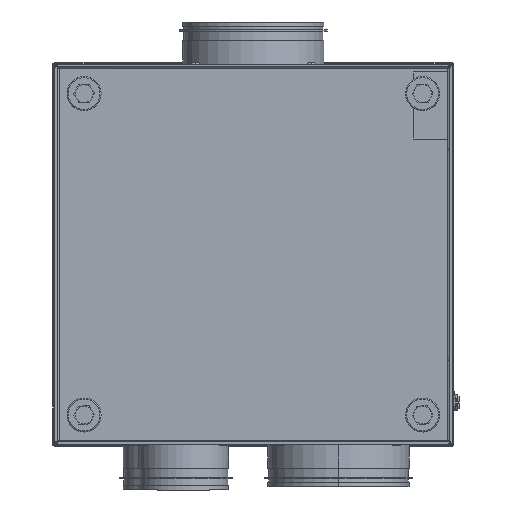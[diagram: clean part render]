
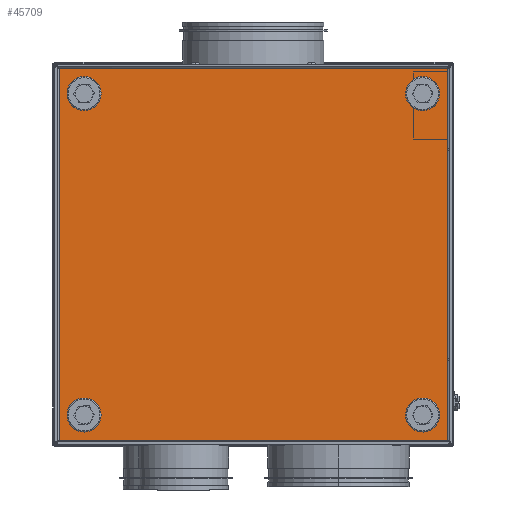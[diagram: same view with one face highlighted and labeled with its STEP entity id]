
A CAD part, front view. The second image highlights one B-rep face of the part: STEP entity #45709.
In plain terms, the highlighted planar face has unit normal (0, -1, 0).
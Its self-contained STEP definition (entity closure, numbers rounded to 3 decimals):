
#90 = DIRECTION ( 'NONE',  ( 0., 0., -1. ) ) ;
#812 = VERTEX_POINT ( 'NONE', #132960 ) ;
#2305 = EDGE_CURVE ( 'NONE', #3765, #5589, #123613, .T. ) ;
#3765 = VERTEX_POINT ( 'NONE', #151970 ) ;
#4044 = DIRECTION ( 'NONE',  ( 0., 1., 0. ) ) ;
#4382 = ORIENTED_EDGE ( 'NONE', *, *, #33669, .T. ) ;
#4397 = ORIENTED_EDGE ( 'NONE', *, *, #2305, .F. ) ;
#4727 = EDGE_LOOP ( 'NONE', ( #7656, #4397, #85359, #145060 ) ) ;
#5527 = EDGE_LOOP ( 'NONE', ( #6250, #150800 ) ) ;
#5589 = VERTEX_POINT ( 'NONE', #125792 ) ;
#6000 = DIRECTION ( 'NONE',  ( 0., 0., -1. ) ) ;
#6250 = ORIENTED_EDGE ( 'NONE', *, *, #36122, .T. ) ;
#6703 = FACE_BOUND ( 'NONE', #5527, .T. ) ;
#6755 = DIRECTION ( 'NONE',  ( 0., 1., 0. ) ) ;
#7656 = ORIENTED_EDGE ( 'NONE', *, *, #114374, .F. ) ;
#11003 = CARTESIAN_POINT ( 'NONE',  ( -140.642, -4.598, -139.261 ) ) ;
#11309 = CARTESIAN_POINT ( 'NONE',  ( 157.358, -4.598, -133.011 ) ) ;
#11585 = DIRECTION ( 'NONE',  ( 0., 1., 0. ) ) ;
#12461 = AXIS2_PLACEMENT_3D ( 'NONE', #20641, #103408, #44433 ) ;
#12691 = AXIS2_PLACEMENT_3D ( 'NONE', #129931, #141802, #90 ) ;
#16597 = VERTEX_POINT ( 'NONE', #31514 ) ;
#17883 = FACE_OUTER_BOUND ( 'NONE', #4727, .T. ) ;
#19327 = CARTESIAN_POINT ( 'NONE',  ( -140.642, -4.598, 137.489 ) ) ;
#19813 = FACE_BOUND ( 'NONE', #35930, .T. ) ;
#20177 = CARTESIAN_POINT ( 'NONE',  ( -140.642, -4.598, 149.989 ) ) ;
#20641 = CARTESIAN_POINT ( 'NONE',  ( 157.358, -4.598, 143.739 ) ) ;
#21708 = EDGE_LOOP ( 'NONE', ( #26754, #72300 ) ) ;
#22306 = VERTEX_POINT ( 'NONE', #20177 ) ;
#22991 = EDGE_CURVE ( 'NONE', #37637, #36201, #61396, .T. ) ;
#23249 = DIRECTION ( 'NONE',  ( 0., 0., -1. ) ) ;
#24820 = CIRCLE ( 'NONE', #148292, 6.25 ) ;
#26754 = ORIENTED_EDGE ( 'NONE', *, *, #22991, .T. ) ;
#27338 = CARTESIAN_POINT ( 'NONE',  ( -140.642, -4.598, 143.739 ) ) ;
#27394 = DIRECTION ( 'NONE',  ( 0., 1., 0. ) ) ;
#30020 = VECTOR ( 'NONE', #93196, 1000. ) ;
#31514 = CARTESIAN_POINT ( 'NONE',  ( 179.358, -4.598, 165.739 ) ) ;
#33669 = EDGE_CURVE ( 'NONE', #22306, #35438, #114840, .T. ) ;
#33809 = CIRCLE ( 'NONE', #134058, 6.25 ) ;
#35438 = VERTEX_POINT ( 'NONE', #19327 ) ;
#35876 = CARTESIAN_POINT ( 'NONE',  ( -140.642, -4.598, -139.261 ) ) ;
#35930 = EDGE_LOOP ( 'NONE', ( #69548, #126372 ) ) ;
#35959 = EDGE_CURVE ( 'NONE', #74836, #98881, #141958, .T. ) ;
#36122 = EDGE_CURVE ( 'NONE', #75504, #115013, #105082, .T. ) ;
#36201 = VERTEX_POINT ( 'NONE', #90522 ) ;
#37637 = VERTEX_POINT ( 'NONE', #95484 ) ;
#40322 = CARTESIAN_POINT ( 'NONE',  ( 157.358, -4.598, -139.261 ) ) ;
#43529 = EDGE_CURVE ( 'NONE', #35438, #22306, #84080, .T. ) ;
#44433 = DIRECTION ( 'NONE',  ( 0., 0., -1. ) ) ;
#45651 = CARTESIAN_POINT ( 'NONE',  ( -163.789, -4.598, 165.739 ) ) ;
#45709 = ADVANCED_FACE ( 'NONE', ( #71685, #123374, #17883, #19813, #6703 ), #70390, .T. ) ;
#48212 = DIRECTION ( 'NONE',  ( 0., 0., -1. ) ) ;
#48875 = CARTESIAN_POINT ( 'NONE',  ( 157.358, -4.598, -145.511 ) ) ;
#51822 = LINE ( 'NONE', #137119, #111037 ) ;
#52087 = AXIS2_PLACEMENT_3D ( 'NONE', #27338, #4044, #85816 ) ;
#54262 = EDGE_LOOP ( 'NONE', ( #4382, #130674 ) ) ;
#56558 = EDGE_CURVE ( 'NONE', #115013, #75504, #24820, .T. ) ;
#57096 = DIRECTION ( 'NONE',  ( 0., 0., 1. ) ) ;
#58101 = CARTESIAN_POINT ( 'NONE',  ( -140.642, -4.598, -145.511 ) ) ;
#58637 = DIRECTION ( 'NONE',  ( 0., 0., -1. ) ) ;
#60223 = DIRECTION ( 'NONE',  ( -1., 0., 0. ) ) ;
#61396 = CIRCLE ( 'NONE', #151291, 6.25 ) ;
#64020 = CARTESIAN_POINT ( 'NONE',  ( 157.358, -4.598, 143.739 ) ) ;
#64579 = CIRCLE ( 'NONE', #12461, 6.25 ) ;
#65284 = CARTESIAN_POINT ( 'NONE',  ( -140.642, -4.598, 143.739 ) ) ;
#69548 = ORIENTED_EDGE ( 'NONE', *, *, #150393, .T. ) ;
#70390 = PLANE ( 'NONE',  #153345 ) ;
#71685 = FACE_BOUND ( 'NONE', #21708, .T. ) ;
#72300 = ORIENTED_EDGE ( 'NONE', *, *, #75341, .T. ) ;
#74836 = VERTEX_POINT ( 'NONE', #58101 ) ;
#75341 = EDGE_CURVE ( 'NONE', #36201, #37637, #64579, .T. ) ;
#75504 = VERTEX_POINT ( 'NONE', #11309 ) ;
#80310 = CARTESIAN_POINT ( 'NONE',  ( -162.642, -4.598, -162.407 ) ) ;
#84080 = CIRCLE ( 'NONE', #92661, 6.25 ) ;
#85081 = EDGE_CURVE ( 'NONE', #16597, #3765, #51822, .T. ) ;
#85359 = ORIENTED_EDGE ( 'NONE', *, *, #85081, .F. ) ;
#85816 = DIRECTION ( 'NONE',  ( 0., 0., -1. ) ) ;
#90522 = CARTESIAN_POINT ( 'NONE',  ( 157.358, -4.598, 137.489 ) ) ;
#92661 = AXIS2_PLACEMENT_3D ( 'NONE', #65284, #6755, #101957 ) ;
#93196 = DIRECTION ( 'NONE',  ( 1., 0., 0. ) ) ;
#93728 = DIRECTION ( 'NONE',  ( 0., 1., 0. ) ) ;
#93996 = AXIS2_PLACEMENT_3D ( 'NONE', #11003, #93728, #58637 ) ;
#94111 = DIRECTION ( 'NONE',  ( 0., -1., 0. ) ) ;
#95361 = CARTESIAN_POINT ( 'NONE',  ( 180.504, -4.598, -161.261 ) ) ;
#95484 = CARTESIAN_POINT ( 'NONE',  ( 157.358, -4.598, 149.989 ) ) ;
#98059 = CARTESIAN_POINT ( 'NONE',  ( -140.642, -4.598, -133.011 ) ) ;
#98881 = VERTEX_POINT ( 'NONE', #98059 ) ;
#99561 = VECTOR ( 'NONE', #60223, 1000. ) ;
#101957 = DIRECTION ( 'NONE',  ( 0., 0., -1. ) ) ;
#103408 = DIRECTION ( 'NONE',  ( 0., 1., 0. ) ) ;
#105082 = CIRCLE ( 'NONE', #12691, 6.25 ) ;
#106789 = VECTOR ( 'NONE', #57096, 1000. ) ;
#111037 = VECTOR ( 'NONE', #48212, 1000. ) ;
#114374 = EDGE_CURVE ( 'NONE', #5589, #812, #123321, .T. ) ;
#114840 = CIRCLE ( 'NONE', #52087, 6.25 ) ;
#115013 = VERTEX_POINT ( 'NONE', #48875 ) ;
#118678 = DIRECTION ( 'NONE',  ( 0., 0., -1. ) ) ;
#123321 = LINE ( 'NONE', #80310, #106789 ) ;
#123374 = FACE_BOUND ( 'NONE', #54262, .T. ) ;
#123613 = LINE ( 'NONE', #95361, #99561 ) ;
#125792 = CARTESIAN_POINT ( 'NONE',  ( -162.642, -4.598, -161.261 ) ) ;
#126220 = LINE ( 'NONE', #45651, #30020 ) ;
#126372 = ORIENTED_EDGE ( 'NONE', *, *, #35959, .T. ) ;
#129764 = EDGE_CURVE ( 'NONE', #812, #16597, #126220, .T. ) ;
#129931 = CARTESIAN_POINT ( 'NONE',  ( 157.358, -4.598, -139.261 ) ) ;
#130674 = ORIENTED_EDGE ( 'NONE', *, *, #43529, .T. ) ;
#132960 = CARTESIAN_POINT ( 'NONE',  ( -162.642, -4.598, 165.739 ) ) ;
#134058 = AXIS2_PLACEMENT_3D ( 'NONE', #35876, #11585, #118678 ) ;
#134416 = DIRECTION ( 'NONE',  ( 0., 0., -1. ) ) ;
#137119 = CARTESIAN_POINT ( 'NONE',  ( 179.358, -4.598, 166.886 ) ) ;
#141802 = DIRECTION ( 'NONE',  ( 0., 1., 0. ) ) ;
#141958 = CIRCLE ( 'NONE', #93996, 6.25 ) ;
#145060 = ORIENTED_EDGE ( 'NONE', *, *, #129764, .F. ) ;
#147704 = DIRECTION ( 'NONE',  ( 0., 1., 0. ) ) ;
#148292 = AXIS2_PLACEMENT_3D ( 'NONE', #40322, #27394, #134416 ) ;
#150393 = EDGE_CURVE ( 'NONE', #98881, #74836, #33809, .T. ) ;
#150800 = ORIENTED_EDGE ( 'NONE', *, *, #56558, .T. ) ;
#151291 = AXIS2_PLACEMENT_3D ( 'NONE', #64020, #147704, #6000 ) ;
#151970 = CARTESIAN_POINT ( 'NONE',  ( 179.358, -4.598, -161.261 ) ) ;
#153027 = CARTESIAN_POINT ( 'NONE',  ( -165.642, -4.598, -164.261 ) ) ;
#153345 = AXIS2_PLACEMENT_3D ( 'NONE', #153027, #94111, #23249 ) ;
